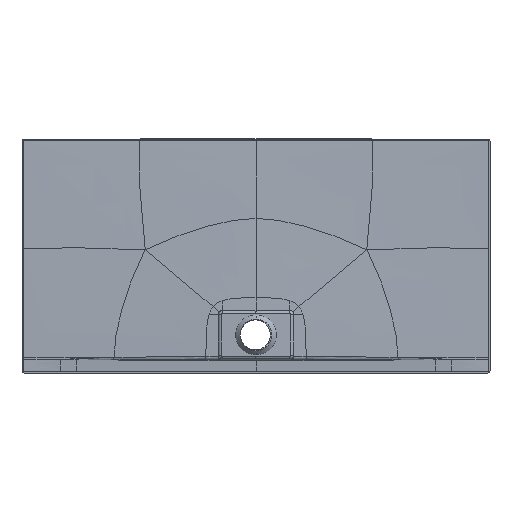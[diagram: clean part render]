
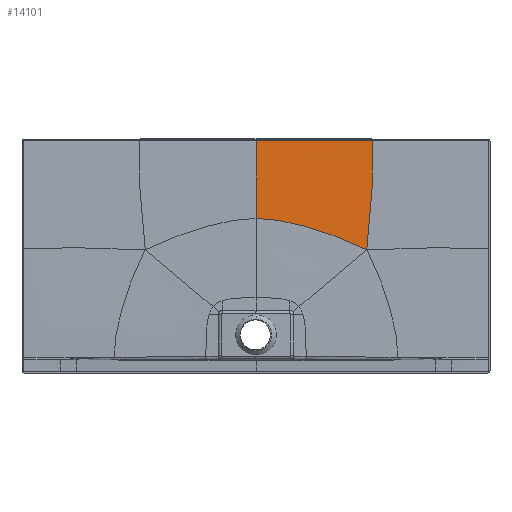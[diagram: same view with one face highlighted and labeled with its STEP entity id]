
A CAD part, front view. The second image highlights one B-rep face of the part: STEP entity #14101.
In plain terms, the highlighted free-form (B-spline) face has degree [3, 3] with [8, 10] control points.
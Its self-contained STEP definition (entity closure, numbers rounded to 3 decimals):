
#3556=CARTESIAN_POINT('',(349.995,-3.054,694.978));
#3580=CARTESIAN_POINT('',(0.002,-3.127,
694.95));
#3581=CARTESIAN_POINT('',(10.7,-3.127,694.95));
#3582=CARTESIAN_POINT('',(33.473,-3.127,694.95));
#3583=CARTESIAN_POINT('',(71.354,-3.123,694.952));
#3584=CARTESIAN_POINT('',(114.222,-3.116,694.955));
#3585=CARTESIAN_POINT('',(162.637,-3.105,694.959));
#3586=CARTESIAN_POINT('',(217.302,-3.09,694.964));
#3587=CARTESIAN_POINT('',(277.991,-3.073,694.971));
#3588=CARTESIAN_POINT('',(325.039,-3.06,694.976));
#3589=CARTESIAN_POINT('',(349.995,-3.054,694.978));
#3591=CARTESIAN_POINT('',(349.995,-3.054,694.978));
#3592=CARTESIAN_POINT('',(349.951,-3.29,673.077));
#3593=CARTESIAN_POINT('',(349.235,-3.866,626.924));
#3594=CARTESIAN_POINT('',(347.608,-4.766,564.369));
#3595=CARTESIAN_POINT('',(345.448,-5.598,507.817));
#3596=CARTESIAN_POINT('',(342.867,-6.267,462.786));
#3597=CARTESIAN_POINT('',(339.285,-6.864,423.575));
#3598=CARTESIAN_POINT('',(335.194,-7.368,391.935));
#3599=CARTESIAN_POINT('',(332.708,-7.627,376.186));
#3600=CARTESIAN_POINT('',(331.352,-7.759,368.368));
#3602=DIRECTION('',(0.,-0.025,-1.));
#3603=VECTOR('',#3602,232.448);
#3604=CARTESIAN_POINT('',(0.002,-3.127,
694.95));
#3605=LINE('',#3604,#3603);
#3655=CARTESIAN_POINT('',(0.,-8.949,
462.575));
#3656=CARTESIAN_POINT('',(23.472,-8.949,462.575));
#3657=CARTESIAN_POINT('',(72.925,-8.863,457.365));
#3658=CARTESIAN_POINT('',(153.293,-8.587,437.789));
#3659=CARTESIAN_POINT('',(224.836,-8.314,414.674));
#3660=CARTESIAN_POINT('',(284.911,-8.037,390.799));
#3661=CARTESIAN_POINT('',(315.789,-7.86,376.343));
#3662=CARTESIAN_POINT('',(331.352,-7.759,368.368));
#3711=CARTESIAN_POINT('',(331.352,-7.759,368.368));
#4429=VERTEX_POINT('',#3711);
#4542=VERTEX_POINT('',#3556);
#4564=CARTESIAN_POINT('',(0.,-8.949,
462.575));
#4566=VERTEX_POINT('',#4564);
#4567=CARTESIAN_POINT('',(0.002,-3.127,
694.95));
#4568=VERTEX_POINT('',#4567);
#14011=CARTESIAN_POINT('',(-3.576,-3.046,
698.214));
#14012=CARTESIAN_POINT('',(-3.574,-3.526,
679.042));
#14013=CARTESIAN_POINT('',(-3.515,-4.502,
640.078));
#14014=CARTESIAN_POINT('',(-3.331,-5.726,
591.218));
#14015=CARTESIAN_POINT('',(-3.158,-6.718,
551.632));
#14016=CARTESIAN_POINT('',(-3.035,-7.461,
521.942));
#14017=CARTESIAN_POINT('',(-2.949,-8.081,
497.2));
#14018=CARTESIAN_POINT('',(-2.897,-8.594,
476.729));
#14019=CARTESIAN_POINT('',(-2.877,-8.859,
466.154));
#14020=CARTESIAN_POINT('',(-2.868,-9.,
460.527));
#14021=CARTESIAN_POINT('',(26.782,-3.046,
698.214));
#14022=CARTESIAN_POINT('',(26.769,-3.527,
679.049));
#14023=CARTESIAN_POINT('',(26.325,-4.504,
640.101));
#14024=CARTESIAN_POINT('',(24.935,-5.73,
591.275));
#14025=CARTESIAN_POINT('',(23.634,-6.722,
551.731));
#14026=CARTESIAN_POINT('',(22.695,-7.466,
522.079));
#14027=CARTESIAN_POINT('',(22.047,-8.085,
497.373));
#14028=CARTESIAN_POINT('',(21.645,-8.598,
476.931));
#14029=CARTESIAN_POINT('',(21.493,-8.863,
466.371));
#14030=CARTESIAN_POINT('',(21.428,-9.003,
460.752));
#14031=CARTESIAN_POINT('',(86.306,-3.044,
698.197));
#14032=CARTESIAN_POINT('',(86.267,-3.508,
678.881));
#14033=CARTESIAN_POINT('',(84.903,-4.453,
639.568));
#14034=CARTESIAN_POINT('',(80.823,-5.645,
589.943));
#14035=CARTESIAN_POINT('',(77.212,-6.622,
549.432));
#14036=CARTESIAN_POINT('',(74.736,-7.362,
518.901));
#14037=CARTESIAN_POINT('',(73.145,-7.986,
493.371));
#14038=CARTESIAN_POINT('',(72.231,-8.506,
472.239));
#14039=CARTESIAN_POINT('',(71.911,-8.775,
461.332));
#14040=CARTESIAN_POINT('',(71.782,-8.919,
455.535));
#14041=CARTESIAN_POINT('',(174.997,-3.038,
698.136));
#14042=CARTESIAN_POINT('',(174.933,-3.438,
678.31));
#14043=CARTESIAN_POINT('',(172.694,-4.265,
637.761));
#14044=CARTESIAN_POINT('',(166.317,-5.35,
585.28));
#14045=CARTESIAN_POINT('',(160.962,-6.282,
541.123));
#14046=CARTESIAN_POINT('',(157.429,-7.014,
507.174));
#14047=CARTESIAN_POINT('',(155.235,-7.653,
478.335));
#14048=CARTESIAN_POINT('',(153.939,-8.2,
454.354));
#14049=CARTESIAN_POINT('',(153.437,-8.488,
441.976));
#14050=CARTESIAN_POINT('',(153.208,-8.642,
435.415));
#14051=CARTESIAN_POINT('',(247.914,-3.032,
698.054));
#14052=CARTESIAN_POINT('',(247.852,-3.365,
677.511));
#14053=CARTESIAN_POINT('',(245.702,-4.081,
635.323));
#14054=CARTESIAN_POINT('',(239.757,-5.082,
579.454));
#14055=CARTESIAN_POINT('',(234.687,-5.978,
531.096));
#14056=CARTESIAN_POINT('',(231.128,-6.702,
493.236));
#14057=CARTESIAN_POINT('',(228.481,-7.35,
460.631));
#14058=CARTESIAN_POINT('',(226.358,-7.912,
433.426));
#14059=CARTESIAN_POINT('',(225.24,-8.211,
419.41));
#14060=CARTESIAN_POINT('',(224.61,-8.372,
411.988));
#14061=CARTESIAN_POINT('',(307.214,-3.027,
697.94));
#14062=CARTESIAN_POINT('',(307.173,-3.307,
676.318));
#14063=CARTESIAN_POINT('',(305.704,-3.943,
631.809));
#14064=CARTESIAN_POINT('',(301.823,-4.893,
572.033));
#14065=CARTESIAN_POINT('',(298.16,-5.758,
519.348));
#14066=CARTESIAN_POINT('',(295.067,-6.459,
477.63));
#14067=CARTESIAN_POINT('',(291.911,-7.09,
441.42));
#14068=CARTESIAN_POINT('',(288.645,-7.639,
411.198));
#14069=CARTESIAN_POINT('',(286.645,-7.932,
395.633));
#14070=CARTESIAN_POINT('',(285.494,-8.089,
387.434));
#14071=CARTESIAN_POINT('',(337.348,-3.024,
697.858));
#14072=CARTESIAN_POINT('',(337.322,-3.278,
675.439));
#14073=CARTESIAN_POINT('',(336.368,-3.878,
629.245));
#14074=CARTESIAN_POINT('',(334.017,-4.804,
566.897));
#14075=CARTESIAN_POINT('',(331.392,-5.647,
511.573));
#14076=CARTESIAN_POINT('',(328.656,-6.328,
467.576));
#14077=CARTESIAN_POINT('',(325.211,-6.937,
429.301));
#14078=CARTESIAN_POINT('',(321.254,-7.467,
397.336));
#14079=CARTESIAN_POINT('',(318.788,-7.751,
380.929));
#14080=CARTESIAN_POINT('',(317.307,-7.904,
372.237));
#14081=CARTESIAN_POINT('',(352.898,-3.023,
697.808));
#14082=CARTESIAN_POINT('',(352.881,-3.264,
674.896));
#14083=CARTESIAN_POINT('',(352.216,-3.845,
627.666));
#14084=CARTESIAN_POINT('',(350.721,-4.758,
563.797));
#14085=CARTESIAN_POINT('',(348.666,-5.587,
506.965));
#14086=CARTESIAN_POINT('',(346.121,-6.253,
461.698));
#14087=CARTESIAN_POINT('',(342.508,-6.848,
422.275));
#14088=CARTESIAN_POINT('',(338.213,-7.366,
389.377));
#14089=CARTESIAN_POINT('',(335.474,-7.643,
372.459));
#14090=CARTESIAN_POINT('',(333.874,-7.793,
363.545));
#14091=B_SPLINE_SURFACE_WITH_KNOTS('',3,3,((#14011,#14012,#14013,#14014,#14015,
#14016,#14017,#14018,#14019,#14020),(#14021,#14022,#14023,#14024,#14025,#14026,
#14027,#14028,#14029,#14030),(#14031,#14032,#14033,#14034,#14035,#14036,#14037,
#14038,#14039,#14040),(#14041,#14042,#14043,#14044,#14045,#14046,#14047,#14048,
#14049,#14050),(#14051,#14052,#14053,#14054,#14055,#14056,#14057,#14058,#14059,
#14060),(#14061,#14062,#14063,#14064,#14065,#14066,#14067,#14068,#14069,#14070),
(#14071,#14072,#14073,#14074,#14075,#14076,#14077,#14078,#14079,#14080),(#14081,
#14082,#14083,#14084,#14085,#14086,#14087,#14088,#14089,#14090)),.UNSPECIFIED.,
.F.,.F.,.F.,(4,1,1,1,1,4),(4,1,1,1,1,1,1,4),(-0.005,0.125,0.25,
0.375,0.438,0.504),(0.004,0.125,0.25,0.313,
0.375,0.438,0.469,0.504),.UNSPECIFIED.);
#14093=ORIENTED_EDGE('',*,*,#14092,.F.);
#14095=ORIENTED_EDGE('',*,*,#14094,.T.);
#14096=ORIENTED_EDGE('',*,*,#14002,.T.);
#14098=ORIENTED_EDGE('',*,*,#14097,.F.);
#14099=EDGE_LOOP('',(#14093,#14095,#14096,#14098));
#14100=FACE_OUTER_BOUND('',#14099,.F.);
#14101=ADVANCED_FACE('',(#14100),#14091,.F.);
#3590=B_SPLINE_CURVE_WITH_KNOTS('',3,(#3580,#3581,#3582,#3583,#3584,#3585,#3586,
#3587,#3588,#3589),.UNSPECIFIED.,.F.,.F.,(4,1,1,1,1,1,1,4),(0.,
0.143,0.286,0.429,0.571,
0.714,0.857,1.),.UNSPECIFIED.);
#3601=B_SPLINE_CURVE_WITH_KNOTS('',3,(#3591,#3592,#3593,#3594,#3595,#3596,#3597,
#3598,#3599,#3600),.UNSPECIFIED.,.F.,.F.,(4,1,1,1,1,1,1,4),(0.,
0.236,0.491,0.618,0.745,
0.873,0.936,1.),.UNSPECIFIED.);
#3663=B_SPLINE_CURVE_WITH_KNOTS('',3,(#3655,#3656,#3657,#3658,#3659,#3660,#3661,
#3662),.UNSPECIFIED.,.F.,.F.,(4,1,1,1,1,4),(0.,0.25,0.5,0.75,0.875,
1.),.UNSPECIFIED.);
#14002=EDGE_CURVE('',#4542,#4429,#3601,.T.);
#14092=EDGE_CURVE('',#4568,#4566,#3605,.T.);
#14094=EDGE_CURVE('',#4568,#4542,#3590,.T.);
#14097=EDGE_CURVE('',#4566,#4429,#3663,.T.);
